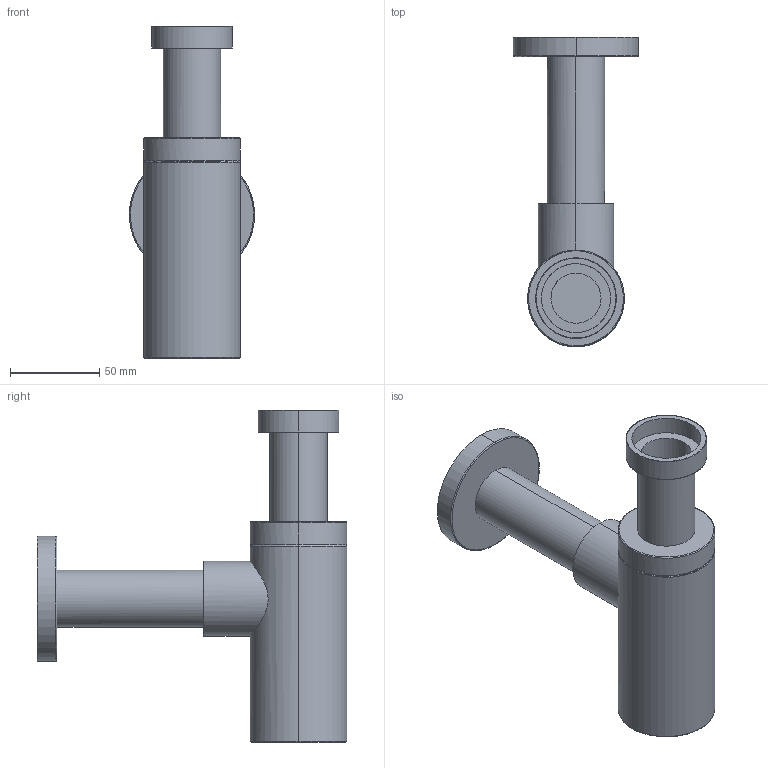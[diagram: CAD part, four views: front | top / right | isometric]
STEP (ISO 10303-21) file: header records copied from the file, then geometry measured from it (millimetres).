
FILE_DESCRIPTION(/* description */ (''),/* implementation_level */ '2;1');
FILE_NAME(/* name */ 'STSIFLXACC',/* time_stamp */ '2024-03-07T15:34:11+01:00',/* author */ (''),/* organization */ (''),/* preprocessor_version */ 'ST-DEVELOPER v16.5',/* originating_system */ 'Rhino 7.36',/* authorisation */ '');
FILE_SCHEMA (('CONFIG_CONTROL_DESIGN'));
Length unit declared in the file: millimetre
Products named in the file (1): Document
Bounding box: 69.91 x 172.97 x 185.5 mm (x, y, z)
Volume: 451603.1 mm3; surface area: 59311.1 mm2
Topology: 1 solids, 1 shells, 41 faces, 82 edges, 50 vertices
Faces by surface type: cylinder 18, bspline 14, plane 9
Entity records: 1388 total; most frequent: CARTESIAN_POINT 782, ORIENTED_EDGE 160, EDGE_CURVE 80, EDGE_LOOP 48, VERTEX_POINT 48, ADVANCED_FACE 41, FACE_OUTER_BOUND 41, DIRECTION 33
